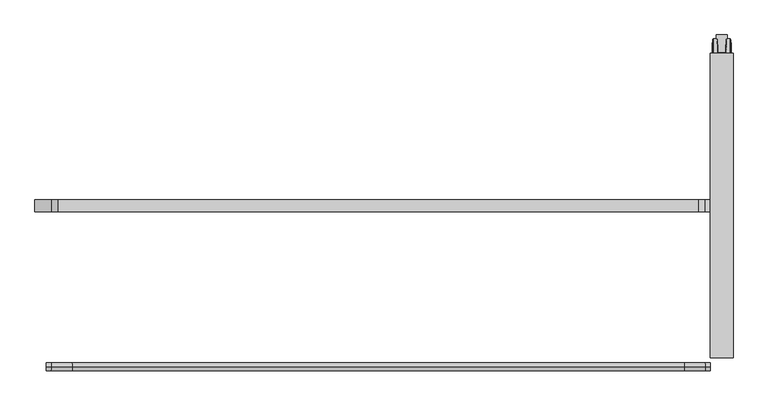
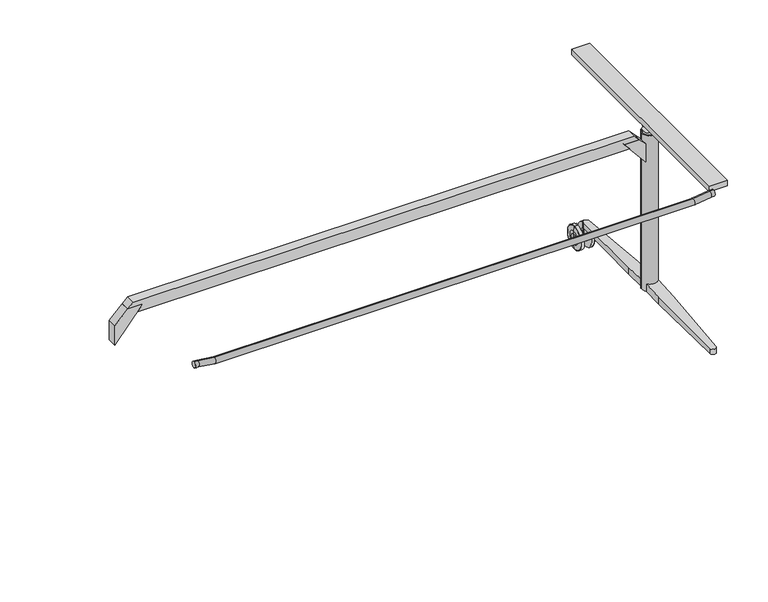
"""IFC4 building model written with IfcOpenShell, lengths in millimetres: furniture geometry, Table_Foldable_Wilkhahn_TimetableLift : 2000w x 1000d (615/00)."""

from ifc_helpers import new_model, si_unit, point, frame, frame_2d, origin, place, context, project, spatial, polyline, circle_curve, ellipse_curve, trimmed, segment, composite_curve, outline, extrude, source, transform, mapped, element, save
from ifc_brep_helpers import plane_surface, cylinder_surface, revolved_surface, advanced_brep


def furniture_87d375f2(model_context):
    return source(origin(), model_context, "Body", "SolidModel", [
        advanced_brep(
        [(870.4530674, 520.9511544, 26.9613134), (870.4530674, 520.9511544, 53.0387194), (870.4530674, 520.9511544, 40.0000164), (872.5845915, 520.9511544, 0.8972162), (872.5845915, 520.9511544, 79.1028166), (871.0121742, 520.9511544, 63.8876748), (871.0121742, 520.9511544, 16.1123581), (883.5439759, 520.9511544, 1.43e-05), (883.5439759, 520.9511544, 80.0000185), (873.5792938, 520.9511544, 80.0000185), (873.5792938, 520.9511544, 1.43e-05), (885.4530966, 520.9511544, 20.9999281), (885.4530966, 520.9511544, 59.0001048), (885.4530966, 520.9511544, 32.3463502), (885.4530966, 520.9511544, 47.6536826), (905.3531174, 520.9511544, 32.3463502), (905.3531174, 520.9511544, 47.6536826), (905.3531174, 520.9511544, 20.9999281), (905.3531174, 520.9511544, 59.0001048), (907.2622381, 520.9511544, 1.43e-05), (907.2622381, 520.9511544, 80.0000185), (916.3249398, 520.9511544, 1.43e-05), (916.3249398, 520.9511544, 80.0000185), (919.7942336, 520.9511544, 16.1142331), (919.7942336, 520.9511544, 63.8857997), (918.3143443, 520.9511544, 78.2056147), (918.3143443, 520.9511544, 1.7944182), (920.3531466, 520.9511544, 40.0000164), (920.3531466, 520.9511544, 53.0406045), (920.3531466, 520.9511544, 26.9594284)],
        [
            (0, 1, circle_curve(frame((870.4530674, 520.9511544, 40.0000164), z_axis=(-1.0, 0.0, 0.0), x_axis=(0.0, 0.0, 1.0)), 13.038703)),
            (1, 2),
            (2, 0),
            (1, 0, circle_curve(frame((870.4530674, 520.9511544, 40.0000164), z_axis=(-1.0, 0.0, 0.0), x_axis=(0.0, 0.0, 1.0)), 13.038703)),
            (3, 4, circle_curve(frame((872.5845915, 520.9511544, 40.0000164), z_axis=(-1.0, 0.0, 0.0), x_axis=(0.0, 0.0, 1.0)), 39.1028002)),
            (4, 5),
            (5, 6, circle_curve(frame((871.0121742, 520.9511544, 40.0000164), z_axis=(1.0, 0.0, 0.0), x_axis=(0.0, 0.0, 1.0)), 23.8876584)),
            (6, 3),
            (4, 3, circle_curve(frame((872.5845915, 520.9511544, 40.0000164), z_axis=(-1.0, 0.0, 0.0), x_axis=(0.0, 0.0, 1.0)), 39.1028002)),
            (6, 5, circle_curve(frame((871.0121742, 520.9511544, 40.0000164), z_axis=(1.0, 0.0, 0.0), x_axis=(0.0, 0.0, 1.0)), 23.8876584)),
            (7, 8, circle_curve(frame((883.5439759, 520.9511544, 40.0000164), z_axis=(-1.0, 0.0, 0.0), x_axis=(0.0, 0.0, 1.0)), 40.0000021)),
            (8, 9),
            (9, 10, circle_curve(frame((873.5792938, 520.9511544, 40.0000164), z_axis=(1.0, 0.0, 0.0), x_axis=(0.0, 0.0, 1.0)), 40.0000021)),
            (10, 7),
            (8, 7, circle_curve(frame((883.5439759, 520.9511544, 40.0000164), z_axis=(-1.0, 0.0, 0.0), x_axis=(0.0, 0.0, 1.0)), 40.0000021)),
            (10, 9, circle_curve(frame((873.5792938, 520.9511544, 40.0000164), z_axis=(1.0, 0.0, 0.0), x_axis=(0.0, 0.0, 1.0)), 40.0000021)),
            (11, 12, circle_curve(frame((885.4530966, 520.9511544, 40.0000164), z_axis=(-1.0, 0.0, 0.0), x_axis=(0.0, 0.0, 1.0)), 19.0000883)),
            (12, 8),
            (7, 11),
            (12, 11, circle_curve(frame((885.4530966, 520.9511544, 40.0000164), z_axis=(-1.0, 0.0, 0.0), x_axis=(0.0, 0.0, 1.0)), 19.0000883)),
            (13, 14, circle_curve(frame((885.4530966, 520.9511544, 40.0000164), z_axis=(-1.0, 0.0, 0.0), x_axis=(0.0, 0.0, 1.0)), 7.6536662)),
            (14, 12),
            (11, 13),
            (14, 13, circle_curve(frame((885.4530966, 520.9511544, 40.0000164), z_axis=(-1.0, 0.0, 0.0), x_axis=(0.0, 0.0, 1.0)), 7.6536662)),
            (15, 16, circle_curve(frame((905.3531174, 520.9511544, 40.0000164), z_axis=(-1.0, 0.0, 0.0), x_axis=(0.0, 0.0, 1.0)), 7.6536662)),
            (16, 14),
            (13, 15),
            (16, 15, circle_curve(frame((905.3531174, 520.9511544, 40.0000164), z_axis=(-1.0, 0.0, 0.0), x_axis=(0.0, 0.0, 1.0)), 7.6536662)),
            (17, 18, circle_curve(frame((905.3531174, 520.9511544, 40.0000164), z_axis=(-1.0, 0.0, 0.0), x_axis=(0.0, 0.0, 1.0)), 19.0000883)),
            (18, 16),
            (15, 17),
            (18, 17, circle_curve(frame((905.3531174, 520.9511544, 40.0000164), z_axis=(-1.0, 0.0, 0.0), x_axis=(0.0, 0.0, 1.0)), 19.0000883)),
            (19, 20, circle_curve(frame((907.2622381, 520.9511544, 40.0000164), z_axis=(-1.0, 0.0, 0.0), x_axis=(0.0, 0.0, 1.0)), 40.0000021)),
            (20, 18),
            (17, 19),
            (20, 19, circle_curve(frame((907.2622381, 520.9511544, 40.0000164), z_axis=(-1.0, 0.0, 0.0), x_axis=(0.0, 0.0, 1.0)), 40.0000021)),
            (21, 22, circle_curve(frame((916.3249398, 520.9511544, 40.0000164), z_axis=(-1.0, 0.0, 0.0), x_axis=(0.0, 0.0, 1.0)), 40.0000021)),
            (22, 20),
            (19, 21),
            (22, 21, circle_curve(frame((916.3249398, 520.9511544, 40.0000164), z_axis=(-1.0, 0.0, 0.0), x_axis=(0.0, 0.0, 1.0)), 40.0000021)),
            (23, 24, circle_curve(frame((919.7942336, 520.9511544, 40.0000164), z_axis=(-1.0, 0.0, 0.0), x_axis=(0.0, 0.0, 1.0)), 23.8857833)),
            (24, 25),
            (25, 26, circle_curve(frame((918.3143443, 520.9511544, 40.0000164), z_axis=(1.0, 0.0, 0.0), x_axis=(0.0, 0.0, 1.0)), 38.2055982)),
            (26, 23),
            (24, 23, circle_curve(frame((919.7942336, 520.9511544, 40.0000164), z_axis=(-1.0, 0.0, 0.0), x_axis=(0.0, 0.0, 1.0)), 23.8857833)),
            (26, 25, circle_curve(frame((918.3143443, 520.9511544, 40.0000164), z_axis=(1.0, 0.0, 0.0), x_axis=(0.0, 0.0, 1.0)), 38.2055982)),
            (27, 28),
            (28, 29, circle_curve(frame((920.3531466, 520.9511544, 40.0000164), z_axis=(1.0, 0.0, 0.0), x_axis=(0.0, 0.0, 1.0)), 13.0405881)),
            (29, 27),
            (29, 28, circle_curve(frame((920.3531466, 520.9511544, 40.0000164), z_axis=(1.0, 0.0, 0.0), x_axis=(0.0, 0.0, 1.0)), 13.0405881)),
            (5, 1, circle_curve(frame((975.9896451, 520.9511544, 53.0387194), z_axis=(0.0, -1.0, 0.0), x_axis=(-1.0, 0.0, 0.0)), 105.5365777)),
            (0, 6, circle_curve(frame((975.9896451, 520.9511544, 26.9613134), z_axis=(0.0, -1.0, 0.0), x_axis=(-1.0, 0.0, 0.0)), 105.5365777)),
            (9, 4, circle_curve(frame((873.5792938, 520.9511544, 79.0000185), z_axis=(0.0, -1.0, 0.0), x_axis=(-1.0, 0.0, 0.0)), 1.0)),
            (3, 10, circle_curve(frame((873.5792938, 520.9511544, 1.0000143), z_axis=(0.0, -1.0, 0.0), x_axis=(-1.0, 0.0, 0.0)), 1.0)),
            (25, 22, circle_curve(frame((916.3249398, 520.9511544, 78.0000185), z_axis=(0.0, -1.0, 0.0), x_axis=(-1.0, 0.0, 0.0)), 2.0)),
            (21, 26, circle_curve(frame((916.3249398, 520.9511544, 2.0000143), z_axis=(0.0, -1.0, 0.0), x_axis=(-1.0, 0.0, 0.0)), 2.0)),
            (28, 24, circle_curve(frame((814.8531466, 520.9511544, 53.0406045), z_axis=(0.0, -1.0, 0.0), x_axis=(-1.0, 0.0, 0.0)), 105.5)),
            (23, 29, circle_curve(frame((814.8531466, 520.9511544, 26.9594284), z_axis=(0.0, -1.0, 0.0), x_axis=(-1.0, 0.0, 0.0)), 105.5)),
        ],
        [
            plane_surface(frame((870.4530674, 520.9511544, 40.0000164), z_axis=(-1.0, 0.0, 0.0), x_axis=(0.0, 0.0, 1.0))),
            revolved_surface(polyline([(871.0121742, 520.9511544, 63.8876748), (872.5845915, 520.9511544, 79.1028166)]), (936.1531192, 520.9511544, 40.0000164), (1.0, 0.0, 0.0)),
            cylinder_surface(frame((936.1531192, 520.9511544, 40.0000164), z_axis=(1.0, 0.0, 0.0), x_axis=(0.0, 0.0, 1.0)), 40.0000021),
            revolved_surface(polyline([(883.5439759, 520.9511544, 80.0000185), (885.4530966, 520.9511544, 59.0001048)]), (936.1531192, 520.9511544, 40.0000164), (1.0, 0.0, 0.0)),
            plane_surface(frame((885.4530966, 520.9511544, 40.0000164), z_axis=(1.0, 0.0, 0.0), x_axis=(0.0, 0.0, 1.0))),
            cylinder_surface(frame((936.1531192, 520.9511544, 40.0000164), z_axis=(1.0, 0.0, 0.0), x_axis=(0.0, 0.0, 1.0)), 7.6536662),
            plane_surface(frame((905.3531174, 520.9511544, 40.0000164), z_axis=(-1.0, 0.0, 0.0), x_axis=(0.0, 0.0, 1.0))),
            revolved_surface(polyline([(905.3531174, 520.9511544, 59.0001048), (907.2622381, 520.9511544, 80.0000185)]), (936.1531192, 520.9511544, 40.0000164), (1.0, 0.0, 0.0)),
            revolved_surface(polyline([(918.3143443, 520.9511544, 78.2056147), (919.7942336, 520.9511544, 63.8857997)]), (936.1531192, 520.9511544, 40.0000164), (1.0, 0.0, 0.0)),
            plane_surface(frame((920.3531466, 520.9511544, 40.0000164), z_axis=(1.0, 0.0, 0.0), x_axis=(0.0, 0.0, 1.0))),
            revolved_surface(trimmed(ellipse_curve(frame((975.9896451, 520.9511544, 53.0387194), z_axis=(0.0, 1.0, 0.0), x_axis=(-1.0, 0.0, 0.0)), 105.5365777, 105.5365777), [point((870.4530674, 520.9511544, 53.0387194))], [point((871.0121742, 520.9511544, 63.8876748))], True, "CARTESIAN"), (936.1531192, 520.9511544, 40.0000164), (1.0, 0.0, 0.0)),
            revolved_surface(trimmed(ellipse_curve(frame((873.5792938, 520.9511544, 79.0000185), z_axis=(0.0, 1.0, 0.0), x_axis=(-1.0, 0.0, 0.0)), 1.0, 1.0), [point((872.5845915, 520.9511544, 79.1028166))], [point((873.5792938, 520.9511544, 80.0000185))], True, "CARTESIAN"), (936.1531192, 520.9511544, 40.0000164), (1.0, 0.0, 0.0)),
            revolved_surface(trimmed(ellipse_curve(frame((916.3249398, 520.9511544, 78.0000185), z_axis=(0.0, 1.0, 0.0), x_axis=(-1.0, 0.0, 0.0)), 2.0, 2.0), [point((916.3249398, 520.9511544, 80.0000185))], [point((918.3143443, 520.9511544, 78.2056147))], True, "CARTESIAN"), (936.1531192, 520.9511544, 40.0000164), (1.0, 0.0, 0.0)),
            revolved_surface(trimmed(ellipse_curve(frame((814.8531466, 520.9511544, 53.0406045), z_axis=(0.0, 1.0, 0.0), x_axis=(-1.0, 0.0, 0.0)), 105.5, 105.5), [point((919.7942336, 520.9511544, 63.8857997))], [point((920.3531466, 520.9511544, 53.0406045))], True, "CARTESIAN"), (936.1531192, 520.9511544, 40.0000164), (1.0, 0.0, 0.0)),
        ],
        [
            (0, [[1, 2, 3]]),
            (0, [[4, -3, -2]]),
            (1, [[5, 6, 7, 8]]),
            (1, [[9, -8, 10, -6]]),
            (2, [[11, 12, 13, 14]]),
            (2, [[15, -14, 16, -12]]),
            (3, [[17, 18, -11, 19]]),
            (3, [[20, -19, -15, -18]]),
            (4, [[21, 22, -17, 23]]),
            (4, [[24, -23, -20, -22]]),
            (5, [[25, 26, -21, 27]]),
            (5, [[28, -27, -24, -26]]),
            (6, [[29, 30, -25, 31]]),
            (6, [[32, -31, -28, -30]]),
            (7, [[33, 34, -29, 35]]),
            (7, [[36, -35, -32, -34]]),
            (2, [[37, 38, -33, 39]]),
            (2, [[40, -39, -36, -38]]),
            (8, [[41, 42, 43, 44]]),
            (8, [[45, -44, 46, -42]]),
            (9, [[47, 48, 49]]),
            (9, [[-49, 50, -47]]),
            (10, [[-7, 51, -1, 52]]),
            (10, [[-10, -52, -4, -51]]),
            (11, [[-13, 53, -5, 54]]),
            (11, [[-16, -54, -9, -53]]),
            (12, [[-43, 55, -37, 56]]),
            (12, [[-46, -56, -40, -55]]),
            (13, [[-48, 57, -41, 58]]),
            (13, [[-50, -58, -45, -57]]),
        ],
    ),
        advanced_brep(
        [(915.0000252, 110.1174444, 100.5064747), (915.0000252, 110.1174444, 125.9916346), (915.0000252, 24.0035147, 121.2441802), (915.0000252, 24.0035147, 97.613637), (875.0000252, 110.1174444, 125.9916346), (875.0000252, 110.1174444, 100.5064747), (875.0000252, 41.34133, 98.1960687), (875.0000252, 41.34133, 122.2000127), (905.3307927, -238.0675149, 88.8098467), (885.2931938, -238.0675149, 88.8098467), (885.3284401, -239.0242798, 106.743478), (905.2954923, -239.0242831, 106.7434779), (905.2954923, -239.0242831, 88.8098467), (885.3284401, -239.0242798, 88.8098467)],
        [
            (0, 1),
            (1, 2),
            (2, 3),
            (3, 0),
            (4, 5),
            (5, 6),
            (6, 7),
            (7, 4),
            (5, 0),
            (3, 8),
            (8, 9),
            (9, 6),
            (1, 4),
            (7, 10),
            (10, 11, ellipse_curve(frame((895.3119663, -238.4505156, 106.7751096), z_axis=(0.0, -0.055046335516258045, 0.9984838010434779), x_axis=(0.0, -0.9984838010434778, -0.05504633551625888)), 10.015185, 10.0)),
            (11, 2),
            (8, 12),
            (12, 13, circle_curve(frame((895.3119663, -238.4505156, 88.8098467), z_axis=(0.0, 0.0, -1.0), x_axis=(-1.0, 0.0, 0.0)), 10.0)),
            (13, 9),
            (13, 10),
            (12, 11),
        ],
        [
            plane_surface(frame((915.0000252, 110.1174444, 100.5064747), z_axis=(1.0, 0.0, 0.0), x_axis=(0.0, 0.9994362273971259, 0.033574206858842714))),
            plane_surface(frame((875.0000252, 110.1174444, 100.5064747), z_axis=(-1.0, 0.0, 0.0), x_axis=(0.0, -0.9994362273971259, -0.033574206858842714))),
            plane_surface(frame((915.0000252, -238.0675149, 88.8098467), z_axis=(0.0, 0.033574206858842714, -0.9994362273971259), x_axis=(-1.0, 0.0, 0.0))),
            plane_surface(frame((915.0000252, 110.1174444, 125.9916346), z_axis=(0.0, -0.055046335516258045, 0.9984838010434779), x_axis=(-1.0, 0.0, 0.0))),
            plane_surface(frame((915.0000252, -249.5346363, 88.8098467), z_axis=(0.0, 0.0, -1.0), x_axis=(-1.0, 0.0, 0.0))),
            plane_surface(frame((885.3284401, -239.0242798, 234.8098558), z_axis=(-0.9993221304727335, -0.0368141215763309, 0.0), x_axis=(0.0, 0.0, -1.0))),
            cylinder_surface(frame((895.3119663, -238.4505156, -14.1901527), z_axis=(0.0, 0.0, -1.0), x_axis=(-1.0, 0.0, 0.0)), 10.0),
            plane_surface(frame((918.1772387, 110.1174444, 234.8098558), z_axis=(0.9993200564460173, -0.036870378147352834, 0.0), x_axis=(0.0, 0.0, -1.0))),
            plane_surface(frame((915.0000252, 110.1174444, 100.5064747), z_axis=(0.0, 1.0, 0.0), x_axis=(-1.0, 0.0, 0.0))),
        ],
        [
            (0, [[1, 2, 3, 4]]),
            (1, [[5, 6, 7, 8]]),
            (2, [[9, -4, 10, 11, 12, -6]]),
            (3, [[13, -8, 14, 15, 16, -2]]),
            (4, [[-11, 17, 18, 19]]),
            (5, [[20, -14, -7, -12, -19]]),
            (6, [[-20, -18, 21, -15]]),
            (7, [[-21, -17, -10, -3, -16]]),
            (8, [[-1, -9, -5, -13]]),
        ],
    ),
        advanced_brep(
        [(915.0000252, 141.7848644, 125.5064747), (915.0000252, 141.7848644, 100.5064747), (915.0000252, 227.8987942, 97.613637), (915.0000252, 227.8987942, 120.8061789), (875.0000252, 141.7848644, 100.5064747), (875.0000252, 141.7848644, 125.5064747), (875.0000252, 210.5609788, 121.7525167), (875.0000252, 210.5609788, 98.1960687), (885.2931938, 489.9698238, 88.8098467), (905.3307927, 489.9698238, 88.8098467), (905.2954923, 490.926592, 106.4495183), (885.3284401, 490.9265887, 106.4495185), (885.3284401, 490.9265887, 88.8098467), (905.2954923, 490.926592, 88.8098467)],
        [
            (0, 1),
            (1, 2),
            (2, 3),
            (3, 0),
            (4, 5),
            (5, 6),
            (6, 7),
            (7, 4),
            (1, 4),
            (7, 8),
            (8, 9),
            (9, 2),
            (0, 5),
            (3, 10),
            (10, 11, ellipse_curve(frame((895.3119663, 490.3528245, 106.4808359), z_axis=(0.0, 0.054501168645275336, 0.9985137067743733), x_axis=(0.0, 0.9985137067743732, -0.05450116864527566)), 10.0148851, 10.0)),
            (11, 6),
            (8, 12),
            (12, 13, circle_curve(frame((895.3119663, 490.3528245, 88.8098467), z_axis=(0.0, 0.0, -1.0), x_axis=(-1.0, 0.0, 0.0)), 10.0)),
            (13, 9),
            (11, 12),
            (10, 13),
        ],
        [
            plane_surface(frame((915.0000252, 110.1174444, 100.5064747), z_axis=(1.0, 0.0, 0.0), x_axis=(0.0, 0.9994362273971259, 0.033574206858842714))),
            plane_surface(frame((875.0000252, 110.1174444, 100.5064747), z_axis=(-1.0, 0.0, 0.0), x_axis=(0.0, -0.9994362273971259, -0.033574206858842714))),
            plane_surface(frame((915.0000252, 141.7848644, 100.5064747), z_axis=(0.0, -0.03357420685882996, -0.9994362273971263), x_axis=(-1.0, 0.0, 0.0))),
            plane_surface(frame((915.0000252, 141.7848644, 125.5064747), z_axis=(0.0, -1.0, 0.0), x_axis=(-1.0, 0.0, 0.0))),
            plane_surface(frame((915.0000252, 501.4369452, 105.8758392), z_axis=(0.0, 0.054501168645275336, 0.9985137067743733), x_axis=(-1.0, 0.0, 0.0))),
            plane_surface(frame((915.0000252, 489.9698238, 88.8098467), z_axis=(0.0, 0.0, -1.0), x_axis=(-1.0, 0.0, 0.0))),
            plane_surface(frame((872.5013837, 142.7351655, 234.8098558), z_axis=(-0.9993221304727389, 0.03681412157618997, 0.0), x_axis=(0.0, 0.0, -1.0))),
            cylinder_surface(frame((895.3119663, 490.3528245, -14.1901527), z_axis=(0.0, 0.0, -1.0), x_axis=(-1.0, 0.0, 0.0)), 10.0),
            plane_surface(frame((905.2954923, 490.926592, 234.8098558), z_axis=(0.9993200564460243, 0.036870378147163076, 0.0), x_axis=(0.0, 0.0, -1.0))),
        ],
        [
            (0, [[1, 2, 3, 4]]),
            (1, [[5, 6, 7, 8]]),
            (2, [[9, -8, 10, 11, 12, -2]]),
            (3, [[-1, 13, -5, -9]]),
            (4, [[-13, -4, 14, 15, 16, -6]]),
            (5, [[-11, 17, 18, 19]]),
            (6, [[20, -17, -10, -7, -16]]),
            (7, [[-20, -15, 21, -18]]),
            (8, [[-21, -14, -3, -12, -19]]),
        ],
    ),
        extrude(outline(composite_curve([segment(trimmed(circle_curve(frame_2d((895.0000252, 125.9511544)), 22.0748856), [point((917.0749108, 125.9511544))], [point((872.9251395, 125.9511544))], False, "CARTESIAN"), True, "CONTINUOUS"), segment(trimmed(circle_curve(frame_2d((895.0000252, 125.9511544)), 22.0748856), [point((872.9251395, 125.9511544))], [point((917.0749108, 125.9511544))], False, "CARTESIAN"), True, "CONTINUOUS")], self_intersect=False)), frame((0.0, 0.0, 648.5142032), z_axis=(0.0, 0.0, 1.0), x_axis=(1.0, 0.0, 0.0)), (0.0, 0.0, 1.0), 7.7231854),
        extrude(outline(polyline([(46.8012701, 909.9796901), (46.8012701, 880.8589951), (33.7579803, 883.5602115), (33.7579803, 907.2784737), (46.8012701, 909.9796901)])), frame((0.0, 520.9511544, 0.0), z_axis=(0.0, 1.0, 0.0), x_axis=(0.0, 0.0, 1.0)), (0.0, 0.0, 1.0), 50.0),
        extrude(outline(composite_curve([segment(trimmed(circle_curve(frame_2d((895.0000252, 125.9511544)), 21.8066495), [point((916.8066747, 125.9511544))], [point((873.1933756, 125.9511544))], False, "CARTESIAN"), True, "CONTINUOUS"), segment(trimmed(circle_curve(frame_2d((895.0000252, 125.9511544)), 21.8066495), [point((873.1933756, 125.9511544))], [point((916.8066747, 125.9511544))], False, "CARTESIAN"), True, "CONTINUOUS")], self_intersect=False)), frame((0.0, 0.0, 672.2302641), z_axis=(0.0, 0.0, 1.0), x_axis=(1.0, 0.0, 0.0)), (0.0, 0.0, 1.0), 12.7697121),
        extrude(outline(composite_curve([segment(trimmed(circle_curve(frame_2d((895.5388896, 490.7419216)), 9.5), [point((905.0388896, 490.7419216))], [point((886.0388896, 490.7419216))], False, "CARTESIAN"), True, "CONTINUOUS"), segment(trimmed(circle_curve(frame_2d((895.5388896, 490.7419216)), 9.5), [point((886.0388896, 490.7419216))], [point((905.0388896, 490.7419216))], False, "CARTESIAN"), True, "CONTINUOUS")], self_intersect=False)), frame((0.0, 0.0, 50.0000143), z_axis=(0.0, 0.0, 1.0), x_axis=(1.0, 0.0, 0.0)), (0.0, 0.0, 1.0), 38.8098324),
        extrude(outline(composite_curve([segment(trimmed(circle_curve(frame_2d((895.0, 125.9511544)), 26.0), [point((921.0, 125.9511544))], [point((869.0, 125.9511544))], False, "CARTESIAN"), True, "CONTINUOUS"), segment(trimmed(circle_curve(frame_2d((895.0, 125.9511544)), 26.0), [point((869.0, 125.9511544))], [point((921.0, 125.9511544))], False, "CARTESIAN"), True, "CONTINUOUS")], self_intersect=False)), frame((0.0, 0.0, 100.2652558), z_axis=(0.0, 0.0, 1.0), x_axis=(1.0, 0.0, 0.0)), (0.0, 0.0, 1.0), 548.2489474),
        extrude(outline(polyline([(659.9544603, -834.0633969), (642.2767908, -851.7410664), (642.2767908, -801.7410664), (621.0635874, -819.2634425), (621.0635874, 819.2634425), (642.2767908, 801.7410664), (642.2767908, 851.7410664), (659.9544603, 834.0633969), (659.9544603, -834.0633969)])), frame((0.0, 109.7857178, 0.0), z_axis=(0.0, 1.0, 0.0), x_axis=(0.0, 0.0, 1.0)), (0.0, 0.0, 1.0), 31.1654367),
        extrude(outline(polyline([(599.7944959, 894.2233613), (642.2767908, 851.7410664), (642.2767908, 801.7410664), (530.3144788, 894.2233613), (599.7944959, 894.2233613)])), frame((0.0, 109.7857178, 0.0), z_axis=(0.0, 1.0, 0.0), x_axis=(0.0, 0.0, 1.0)), (0.0, 0.0, 1.0), 31.1654367),
        extrude(outline(polyline([(599.0178177, -895.0000395), (529.3742049, -895.0000395), (642.2767908, -801.7410664), (642.2767908, -851.7410664), (599.0178177, -895.0000395)])), frame((0.0, 109.7857178, 0.0), z_axis=(0.0, 1.0, 0.0), x_axis=(0.0, 0.0, 1.0)), (0.0, 0.0, 1.0), 31.1654367),
        extrude(outline(polyline([(865.0000395, 522.9511544), (925.0000109, 522.9511544), (925.0000109, -271.0488456), (865.0000395, -271.0488456), (865.0000395, 522.9511544)])), frame((0.0, 0.0, 684.9999762), z_axis=(0.0, 0.0, 1.0), x_axis=(1.0, 0.0, 0.0)), (0.0, 0.0, 1.0), 20.0000238),
        advanced_brep(
        [(-865.0000395, -294.1884095, 705.4672388), (-865.0000395, -294.1884095, 685.4672388), (865.0000395, -294.1884095, 705.4672388), (865.0000395, -294.1884095, 685.4672388), (-852.0892263, -294.1884095, 705.4672388), (-853.5361626, -294.1884095, 685.4672388), (-797.0892404, -294.1884095, 697.4672184), (-798.5361767, -294.1884095, 677.4672184), (797.089229, -294.1884095, 697.4672184), (798.5361653, -294.1884095, 677.4672184), (852.0892149, -294.1884095, 705.4672388), (853.5361512, -294.1884095, 685.4672388)],
        [
            (0, 1, circle_curve(frame((-865.0000395, -294.1884095, 695.4672388), z_axis=(-1.0, 0.0, 0.0), x_axis=(0.0, 0.0, -1.0)), 10.0)),
            (1, 0, circle_curve(frame((-865.0000395, -294.1884095, 695.4672388), z_axis=(-1.0, 0.0, 0.0), x_axis=(0.0, 0.0, -1.0)), 10.0)),
            (2, 3, circle_curve(frame((865.0000395, -294.1884095, 695.4672388), z_axis=(1.0, 0.0, 0.0), x_axis=(0.0, 0.0, -1.0)), 10.0)),
            (3, 2, circle_curve(frame((865.0000395, -294.1884095, 695.4672388), z_axis=(1.0, 0.0, 0.0), x_axis=(0.0, 0.0, -1.0)), 10.0)),
            (0, 4),
            (4, 5, ellipse_curve(frame((-852.8126945, -294.1884095, 695.4672388), z_axis=(-0.9973931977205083, 0.0, 0.07215822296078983), x_axis=(-0.07215822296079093, 0.0, -0.997393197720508)), 10.0261362, 10.0)),
            (5, 1),
            (5, 4, ellipse_curve(frame((-852.8126945, -294.1884095, 695.4672388), z_axis=(-0.9973931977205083, 0.0, 0.07215822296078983), x_axis=(-0.07215822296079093, 0.0, -0.997393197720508)), 10.0261362, 10.0)),
            (4, 6),
            (6, 7, ellipse_curve(frame((-797.8127086, -294.1884095, 687.4672184), z_axis=(-0.9973931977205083, 0.0, 0.07215822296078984), x_axis=(0.07215822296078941, 0.0, 0.9973931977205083)), 10.0261362, 10.0)),
            (7, 5),
            (7, 6, ellipse_curve(frame((-797.8127086, -294.1884095, 687.4672184), z_axis=(-0.9973931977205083, 0.0, 0.07215822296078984), x_axis=(0.07215822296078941, 0.0, 0.9973931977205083)), 10.0261362, 10.0)),
            (6, 8),
            (8, 9, ellipse_curve(frame((797.8126971, -294.1884095, 687.4672184), z_axis=(-0.997393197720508, 0.0, -0.07215822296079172), x_axis=(-0.07215822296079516, 0.0, 0.9973931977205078)), 10.0261362, 10.0)),
            (9, 7),
            (9, 8, ellipse_curve(frame((797.8126971, -294.1884095, 687.4672184), z_axis=(-0.997393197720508, 0.0, -0.07215822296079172), x_axis=(-0.07215822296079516, 0.0, 0.9973931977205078)), 10.0261362, 10.0)),
            (8, 10),
            (10, 11, ellipse_curve(frame((852.812683, -294.1884095, 695.4672388), z_axis=(-0.997393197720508, 0.0, -0.0721582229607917), x_axis=(0.07215822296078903, 0.0, -0.9973931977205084)), 10.0261362, 10.0)),
            (11, 9),
            (11, 10, ellipse_curve(frame((852.812683, -294.1884095, 695.4672388), z_axis=(-0.997393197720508, 0.0, -0.0721582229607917), x_axis=(0.07215822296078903, 0.0, -0.9973931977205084)), 10.0261362, 10.0)),
            (10, 2),
            (3, 11),
        ],
        [
            plane_surface(frame((-865.0000395, -374.0488456, 665.2336856), z_axis=(-1.0, 0.0, 0.0), x_axis=(0.0, 1.0, 0.0))),
            plane_surface(frame((865.0000395, -374.0488456, 665.2336856), z_axis=(1.0, 0.0, 0.0), x_axis=(0.0, 1.0, 0.0))),
            cylinder_surface(frame((-865.0000395, -294.1884095, 695.4672388), z_axis=(-1.0, 0.0, 0.0), x_axis=(0.0, 0.0, -1.0)), 10.0),
            cylinder_surface(frame((-850.6481708, -294.1884095, 695.1523982), z_axis=(-0.989586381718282, 0.0, 0.14394024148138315), x_axis=(-0.14394024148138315, 0.0, -0.989586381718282)), 10.0),
            cylinder_surface(frame((-800.0000099, -294.1884095, 687.4672184), z_axis=(-1.0, 0.0, 0.0), x_axis=(0.0, 0.0, -1.0)), 10.0),
            cylinder_surface(frame((795.6481735, -294.1884095, 687.1523777), z_axis=(-0.9895863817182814, 0.0, -0.14394024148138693), x_axis=(0.14394024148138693, 0.0, -0.9895863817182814)), 10.0),
            cylinder_surface(frame((854.9999844, -294.1884095, 695.4672388), z_axis=(-1.0, 0.0, 0.0), x_axis=(0.0, 0.0, -1.0)), 10.0),
        ],
        [
            (0, [[1, 2]]),
            (1, [[3, 4]]),
            (2, [[-1, 5, 6, 7]]),
            (2, [[-2, -7, 8, -5]]),
            (3, [[-6, 9, 10, 11]]),
            (3, [[-8, -11, 12, -9]]),
            (4, [[-10, 13, 14, 15]]),
            (4, [[-12, -15, 16, -13]]),
            (5, [[-14, 17, 18, 19]]),
            (5, [[-16, -19, 20, -17]]),
            (6, [[-18, 21, -4, 22]]),
            (6, [[-20, -22, -3, -21]]),
        ],
    ),
    ])


if __name__ == "__main__":
    model = new_model("IFC4")
    model_context = context("Model", 3, world=origin())
    ifc_project = project(units=[si_unit("LENGTHUNIT", "METRE", prefix="MILLI")], contexts=[model_context])
    site = spatial("IfcSite", under=ifc_project)
    building = spatial("IfcBuilding", under=site)
    placement = place(None, origin())
    furniture_shape = furniture_87d375f2(model_context)
    element("IfcFurniture", 1, ObjectType="Table_Foldable_Wilkhahn_TimetableLift : 2000w x 1000d (615/00)", at=placement, inside=building, context=model_context, shape_type="MappedRepresentation", body=[
        mapped(furniture_shape, transform((0.0, 0.0, 0.0), x_axis=(1.0, 0.0, 0.0), y_axis=(0.0, 1.0, 0.0), z_axis=(0.0, 0.0, 1.0))),
    ])
    save(model, "model.ifc")
